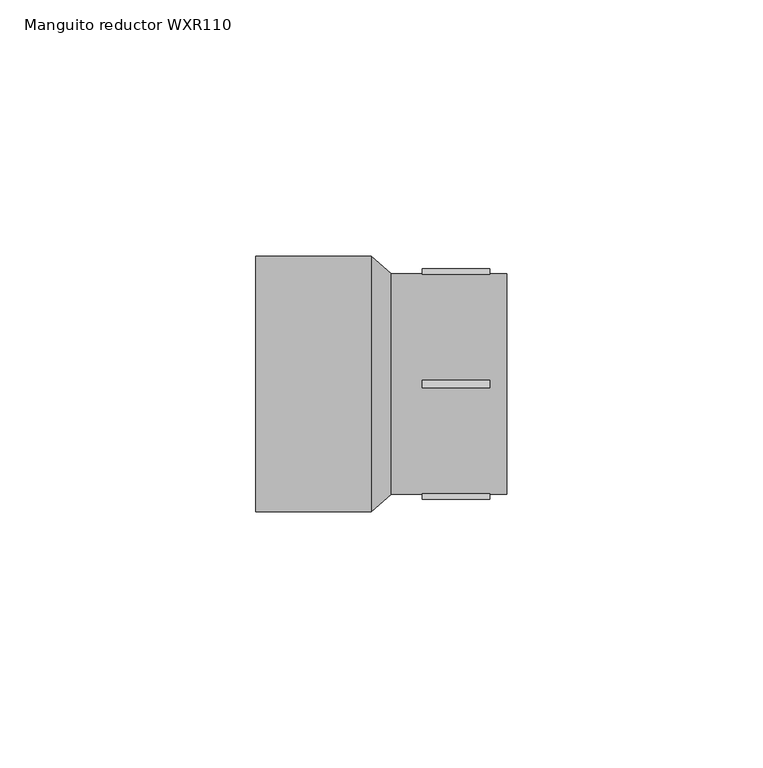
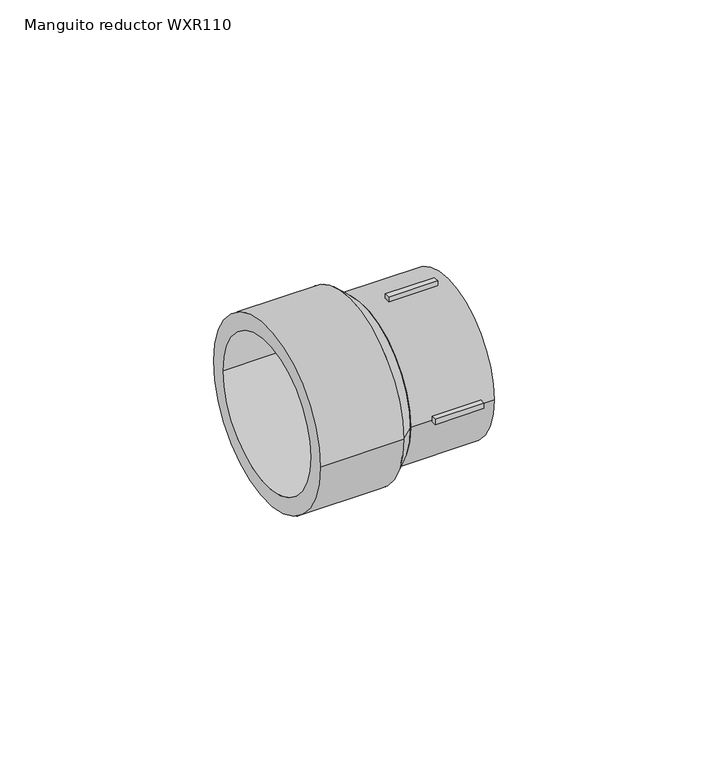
"""IFC4 building model written with IfcOpenShell, lengths in millimetres: pipe fitting geometry, EGB_VASEN_ PPR_Manguito reductor WXR110 : Manguito reductor WXR110."""

from ifc_helpers import new_model, si_unit, point, frame, origin, origin_2d, place, context, project, spatial, polyline, circle_curve, trimmed, segment, composite_curve, outline, extrude, source, transform, mapped, element, save
from ifc_brep_helpers import plane_surface, revolved_surface, advanced_brep


def manguito_reductor_wxr110_1643ff8b(model_context):
    return source(origin(), model_context, "Body", "SolidModel", [
        extrude(outline(polyline([(8.0, -0.75), (8.0, 0.75), (21.2, 0.75), (21.2, -0.75), (8.0, -0.75)])), frame((0.0, 0.0, 20.5), z_axis=(0.0, 0.0, 1.0), x_axis=(1.0, 0.0, 0.0)), (0.0, 0.0, 1.0), 2.0),
        extrude(outline(polyline([(8.0, -0.75), (8.0, 0.75), (21.2, 0.75), (21.2, -0.75), (8.0, -0.75)])), frame((0.0, 0.0, -22.5), z_axis=(0.0, 0.0, 1.0), x_axis=(1.0, 0.0, 0.0)), (0.0, 0.0, 1.0), 2.0),
        extrude(outline(polyline([(8.0, 20.5), (8.0, 22.5), (21.2, 22.5), (21.2, 20.5), (8.0, 20.5)])), frame((0.0, 0.0, -0.75), z_axis=(0.0, 0.0, 1.0), x_axis=(1.0, 0.0, 0.0)), (0.0, 0.0, 1.0), 1.5),
        extrude(outline(polyline([(8.0, -22.5), (8.0, -20.5), (21.2, -20.5), (21.2, -22.5), (8.0, -22.5)])), frame((0.0, 0.0, -0.75), z_axis=(0.0, 0.0, 1.0), x_axis=(1.0, 0.0, 0.0)), (0.0, 0.0, 1.0), 1.5),
        extrude(outline(composite_curve([segment(trimmed(circle_curve(origin_2d(), 21.5), [point((-21.5, 0.0))], [point((21.5, 0.0))], False, "CARTESIAN"), True, "CONTINUOUS"), segment(trimmed(circle_curve(origin_2d(), 21.5), [point((21.5, 0.0))], [point((-21.5, 0.0))], False, "CARTESIAN"), True, "CONTINUOUS")], self_intersect=False), holes=[composite_curve([segment(trimmed(circle_curve(origin_2d(), 16.0), [point((-16.0, 0.0))], [point((16.0, 0.0))], True, "CARTESIAN"), True, "CONTINUOUS"), segment(trimmed(circle_curve(origin_2d(), 16.0), [point((16.0, 0.0))], [point((-16.0, 0.0))], True, "CARTESIAN"), True, "CONTINUOUS")], self_intersect=False)]), frame((1.96, 0.0, 0.0), z_axis=(1.0, 0.0, 0.0), x_axis=(0.0, 1.0, 0.0)), (0.0, 0.0, 1.0), 22.54),
        extrude(outline(composite_curve([segment(trimmed(circle_curve(origin_2d(), 25.0), [point((-25.0, 0.0))], [point((25.0, 0.0))], False, "CARTESIAN"), True, "CONTINUOUS"), segment(trimmed(circle_curve(origin_2d(), 25.0), [point((25.0, 0.0))], [point((-25.0, 0.0))], False, "CARTESIAN"), True, "CONTINUOUS")], self_intersect=False), holes=[composite_curve([segment(trimmed(circle_curve(origin_2d(), 20.5), [point((-20.5, 0.0))], [point((20.5, 0.0))], True, "CARTESIAN"), True, "CONTINUOUS"), segment(trimmed(circle_curve(origin_2d(), 20.5), [point((20.5, 0.0))], [point((-20.5, 0.0))], True, "CARTESIAN"), True, "CONTINUOUS")], self_intersect=False)]), frame((-24.5, 0.0, 0.0), z_axis=(1.0, 0.0, 0.0), x_axis=(0.0, 1.0, 0.0)), (0.0, 0.0, 1.0), 22.54),
        advanced_brep(
        [(1.96, -21.5, 0.0), (1.96, 21.5, 0.0), (-1.96, -25.0, 0.0), (-1.96, 25.0, 0.0)],
        [
            (0, 1, circle_curve(frame((1.96, 0.0, 0.0), z_axis=(1.0, 0.0, 0.0), x_axis=(0.0, -1.0, 0.0)), 21.5)),
            (1, 0, circle_curve(frame((1.96, 0.0, 0.0), z_axis=(1.0, 0.0, 0.0), x_axis=(0.0, 1.0, 0.0)), 21.5)),
            (2, 3, circle_curve(frame((-1.96, 0.0, 0.0), z_axis=(-1.0, 0.0, 0.0), x_axis=(0.0, 1.0, 0.0)), 25.0)),
            (3, 2, circle_curve(frame((-1.96, 0.0, 0.0), z_axis=(-1.0, 0.0, 0.0), x_axis=(0.0, -1.0, 0.0)), 25.0)),
            (3, 1),
            (0, 2),
        ],
        [
            plane_surface(frame((1.96, 0.0, 0.0), z_axis=(1.0, 0.0, 0.0), x_axis=(0.0, 0.0, -1.0))),
            plane_surface(frame((-1.96, 0.0, 0.0), z_axis=(-1.0, 0.0, 0.0), x_axis=(0.0, 0.0, -1.0))),
            revolved_surface(polyline([(1.9600000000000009, -21.5, 0.0), (-1.9600000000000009, -25.0, 0.0)]), (26.04, 0.0, 0.0), (-1.0, 0.0, 0.0)),
            revolved_surface(polyline([(1.9600000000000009, 21.5, 0.0), (-1.9600000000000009, 25.0, 0.0)]), (26.04, 0.0, 0.0), (-1.0, 0.0, 0.0)),
        ],
        [
            (0, [[1, 2]]),
            (1, [[3, 4]]),
            (2, [[-4, 5, -1, 6]]),
            (3, [[-3, -6, -2, -5]]),
        ],
    ),
    ])


if __name__ == "__main__":
    model = new_model("IFC4")
    model_context = context("Model", 3, world=origin())
    ifc_project = project(units=[si_unit("LENGTHUNIT", "METRE", prefix="MILLI")], contexts=[model_context])
    site = spatial("IfcSite", under=ifc_project)
    building = spatial("IfcBuilding", under=site)
    placement = place(None, origin())
    manguito_reductor_wxr110_shape = manguito_reductor_wxr110_1643ff8b(model_context)
    element("IfcPipeFitting", 1, ObjectType="EGB_VASEN_ PPR_Manguito reductor WXR110 : Manguito reductor WXR110", at=placement, inside=building, context=model_context, shape_type="MappedRepresentation", body=[
        mapped(manguito_reductor_wxr110_shape, transform((0.0, 0.0, 0.0), x_axis=(1.0, 0.0, 0.0), y_axis=(0.0, 1.0, 0.0), z_axis=(0.0, 0.0, 1.0))),
    ])
    save(model, "model.ifc")
